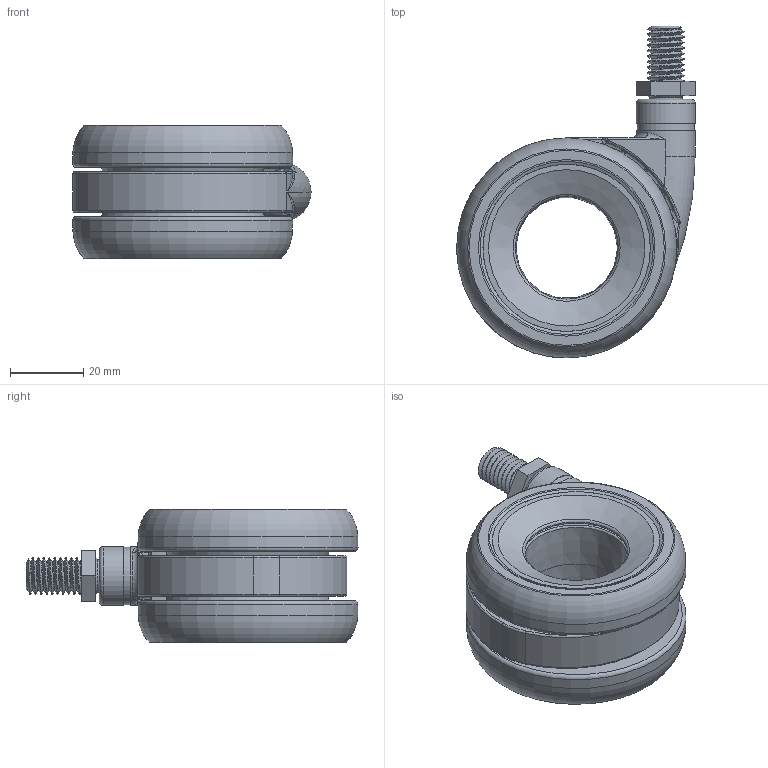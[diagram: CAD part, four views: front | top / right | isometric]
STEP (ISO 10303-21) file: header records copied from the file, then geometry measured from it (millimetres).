
FILE_DESCRIPTION (( 'STEP AP203' ), '1' );
FILE_NAME ('K09U16(M10).STEP', '2025-04-09T09:26:55', ( '' ), ( '' ), 'SwSTEP 2.0', 'SolidWorks 2025', '' );
FILE_SCHEMA (( 'CONFIG_CONTROL_DESIGN' ));
Length unit declared in the file: millimetre
Products named in the file (4): M8縦軸; TPU車輪; K09U16(M10); 本体
Assembly tree (4 placements, depth 2):
  K09U16(M10)
    本体
    M8縦軸
    TPU車輪  x2
Bounding box: 65.08 x 90.5 x 36.4 mm (x, y, z)
Volume: 73191.7 mm3; surface area: 52919.6 mm2
Topology: 8 solids, 9 shells, 456 faces, 1319 edges, 805 vertices
Faces by surface type: plane 216, cylinder 96, torus 61, cone 46, bspline 33, sphere 4
Full cylindrical faces by diameter (mm): 2.3 x45, 7.7 x1, 9 x2, 9.4 x2, 15.6 x1, 16 x2, 34 x2, 34.95 x1, 35 x1, 36 x4, 36.4 x4, 38.35 x3, 44.15 x3, 46 x2, 46.95 x1, 47 x1, 54.897 x4
Entity records: 15264 total; most frequent: CARTESIAN_POINT 6874, DIRECTION 1626, ORIENTED_EDGE 1528, EDGE_CURVE 764, AXIS2_PLACEMENT_3D 727, EDGE_LOOP 589, VERTEX_POINT 535, FACE_OUTER_BOUND 438
